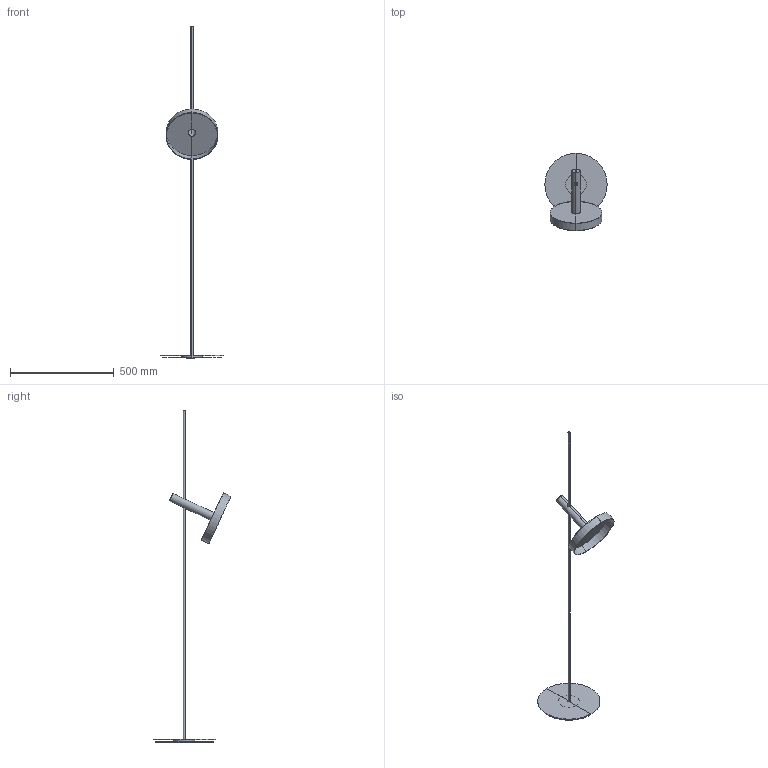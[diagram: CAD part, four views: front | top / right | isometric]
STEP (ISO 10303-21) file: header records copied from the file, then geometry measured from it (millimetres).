
FILE_DESCRIPTION(/* description */ (''),/* implementation_level */ '2;1');
FILE_NAME(/* name */ 'C:\Users\Franco Sartori E\Documents\FARO\DUPLICADO\Modelos\01_Digitalizados\0_WHIZZ\03_Publicación\20164_20162.stp',/* time_stamp */ '2020-10-05T13:05:39+02:00',/* author */ ('Franco Sartori E'),/* organization */ (''),/* preprocessor_version */ 'ST-DEVELOPER v18.1',/* originating_system */ 'AutoCAD Mechanical',/* authorisation */ '');
FILE_SCHEMA (('AUTOMOTIVE_DESIGN { 1 0 10303 214 3 1 1 }'));
Length unit declared in the file: millimetre
Products named in the file (3): Product; 20164_ - WHIZZ-456505-Export; 20162 - 20162 WHIZZ Black and satin gold portable lamp-458261-Export
Assembly tree (2 placements, depth 2):
  Product
    20164_ - WHIZZ-456505-Export
    20162 - 20162 WHIZZ Black and satin gold portable lamp-458261-Export
Bounding box: 300 x 374.73 x 1600 mm (x, y, z)
Volume: 741183.2 mm3; surface area: 680080.1 mm2
Topology: 3 solids, 3 shells, 54 faces, 113 edges, 58 vertices
Faces by surface type: cylinder 28, plane 26
Entity records: 1732 total; most frequent: CARTESIAN_POINT 498, DIRECTION 271, ORIENTED_EDGE 224, EDGE_CURVE 112, AXIS2_PLACEMENT_3D 107, LINE 57, VECTOR 57, VERTEX_POINT 56
